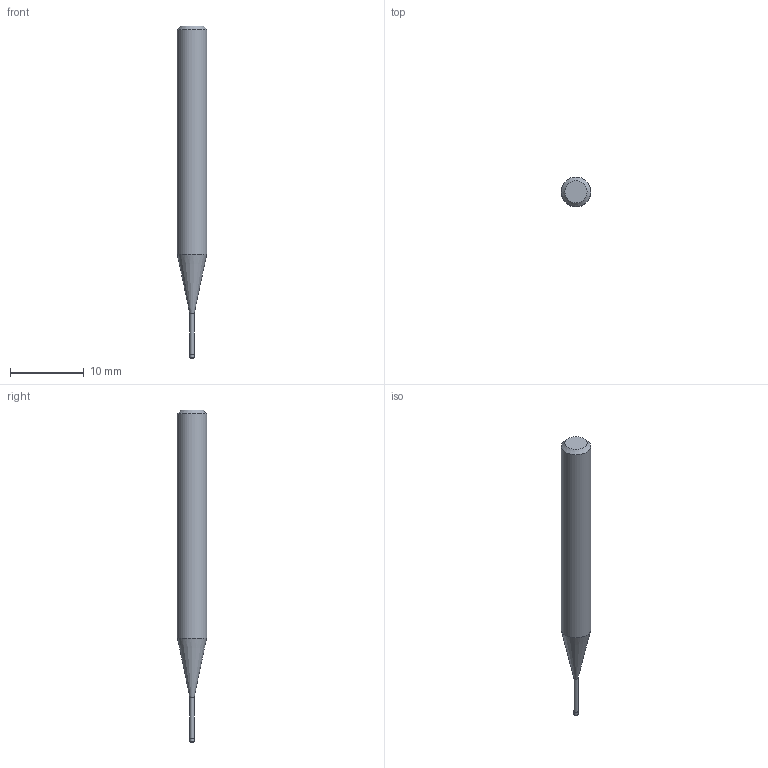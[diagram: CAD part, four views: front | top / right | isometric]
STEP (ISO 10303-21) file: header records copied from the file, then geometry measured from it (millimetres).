
FILE_DESCRIPTION((''),'2;1');
FILE_NAME('C:\Users\nsx150\AppData\Local\Temp\Mastercam 2021\3SYKECWX22\TEMP.step','2021-04-22T09:45:43',(''),(''),'STEP Write','Mastercam 2021 ... CNC Software, Inc.','');
FILE_SCHEMA(('AUTOMOTIVE_DESIGN'));
Length unit declared in the file: millimetre
Products named in the file (1): None
Bounding box: 4 x 4 x 45 mm (x, y, z)
Volume: 427.8 mm3; surface area: 467.6 mm2
Topology: 2 solids, 2 shells, 10 faces, 14 edges, 8 vertices
Faces by surface type: plane 4, cylinder 3, cone 2, torus 1
Full cylindrical faces by diameter (mm): 0.56 x1, 0.6 x1, 4 x1
Entity records: 232 total; most frequent: DIRECTION 40, CARTESIAN_POINT 28, AXIS2_PLACEMENT_3D 20, ORIENTED_EDGE 16, EDGE_LOOP 16, STYLED_ITEM 13, ADVANCED_FACE 10, FACE_BOUND 10
